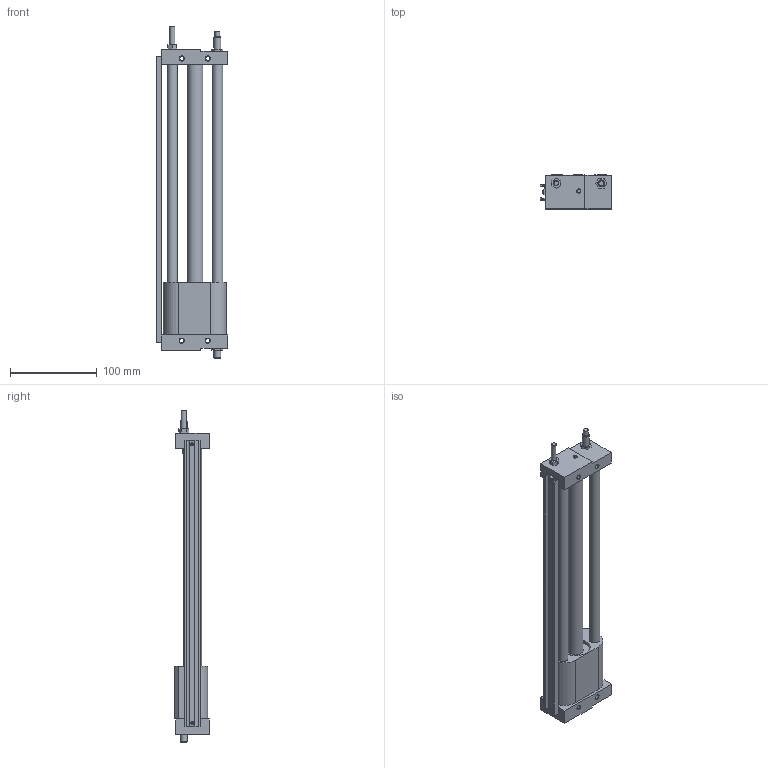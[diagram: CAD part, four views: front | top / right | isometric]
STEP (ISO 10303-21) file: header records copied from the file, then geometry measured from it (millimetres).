
FILE_DESCRIPTION( ( 'STEP AP214' ), '1' );
FILE_NAME( 'C:/Users/EMC02301/Desktop/ESWT图纸/ESWT16X250-S-BS.stp', '2026-07-27T12:52:04', ( 'License CC BY-ND 4.0' ), ( 'CADENAS' ), ' ', 'PARTsolutions', ' ' );
FILE_SCHEMA( ( 'AUTOMOTIVE_DESIGN { 1 0 10303 214 1 1 1 1 }' ) );
Length unit declared in the file: millimetre
Products named in the file (4): ESWT16X250-S-BS()(0); _ESWT16X250-S-BS(0)()_dummy; _ESWT16X250-S-BS(0)()_ROD; _ESWT16X250(0)()_BODY
Assembly tree (3 placements, depth 2):
  ESWT16X250-S-BS()(0)
    _ESWT16X250-S-BS(0)()_dummy
    _ESWT16X250-S-BS(0)()_ROD
    _ESWT16X250(0)()_BODY
Bounding box: 82.5 x 40 x 382.5 mm (x, y, z)
Volume: 381194.5 mm3; surface area: 111733.1 mm2
Topology: 2 solids, 5 shells, 187 faces, 405 edges, 262 vertices
Faces by surface type: plane 103, cylinder 46, cone 36, torus 2
Full cylindrical faces by diameter (mm): 3 x1, 3.5 x2, 4.134 x10, 4.8 x2, 4.917 x4, 5.134 x1, 5.5 x4, 5.6 x1, 5.8 x2, 6 x1, 8 x3, 9.5 x4, 12 x4, 18 x2, 34 x2
Entity records: 6165 total; most frequent: DIRECTION 825, CARTESIAN_POINT 751, ORIENTED_EDGE 622, EDGE_LOOP 325, AXIS2_PLACEMENT_3D 323, EDGE_CURVE 311, VERTEX_POINT 248, FACE_OUTER_BOUND 232
